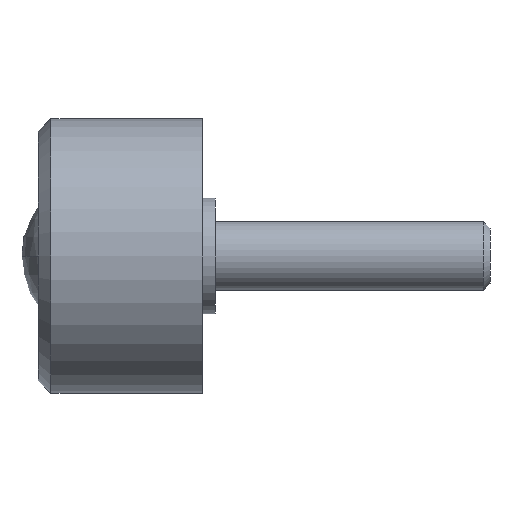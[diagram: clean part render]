
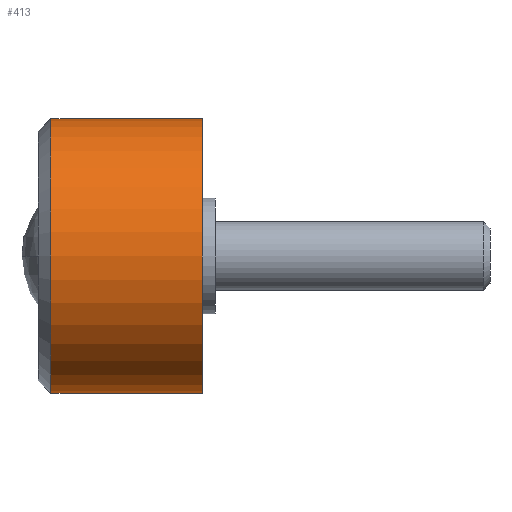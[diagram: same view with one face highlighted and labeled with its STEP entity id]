
A CAD part, left-side view. The second image highlights one B-rep face of the part: STEP entity #413.
In plain terms, the highlighted cylindrical face has radius 16 mm (diameter 32 mm), a partial arc.
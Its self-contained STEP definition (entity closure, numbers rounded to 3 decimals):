
#10 = VECTOR ( 'NONE', #735, 1000. ) ;
#22 = EDGE_CURVE ( 'NONE', #752, #479, #262, .T. ) ;
#58 = CARTESIAN_POINT ( 'NONE',  ( 0., 0., 16. ) ) ;
#62 = ORIENTED_EDGE ( 'NONE', *, *, #22, .T. ) ;
#69 = ORIENTED_EDGE ( 'NONE', *, *, #751, .T. ) ;
#74 = DIRECTION ( 'NONE',  ( 0., -1., 0. ) ) ;
#98 = EDGE_LOOP ( 'NONE', ( #249, #69, #62, #174 ) ) ;
#104 = DIRECTION ( 'NONE',  ( 0., -1., 0. ) ) ;
#107 = CIRCLE ( 'NONE', #462, 16. ) ;
#119 = LINE ( 'NONE', #58, #147 ) ;
#123 = EDGE_CURVE ( 'NONE', #640, #583, #119, .T. ) ;
#147 = VECTOR ( 'NONE', #238, 1000. ) ;
#157 = DIRECTION ( 'NONE',  ( 0., -1., 0. ) ) ;
#170 = CARTESIAN_POINT ( 'NONE',  ( 0., 17.6, -16. ) ) ;
#174 = ORIENTED_EDGE ( 'NONE', *, *, #710, .F. ) ;
#180 = CYLINDRICAL_SURFACE ( 'NONE', #642, 16. ) ;
#213 = AXIS2_PLACEMENT_3D ( 'NONE', #571, #157, #455 ) ;
#231 = CARTESIAN_POINT ( 'NONE',  ( 0., 17.6, 0. ) ) ;
#238 = DIRECTION ( 'NONE',  ( 0., -1., 0. ) ) ;
#249 = ORIENTED_EDGE ( 'NONE', *, *, #123, .F. ) ;
#255 = CARTESIAN_POINT ( 'NONE',  ( 0., 0., -16. ) ) ;
#262 = LINE ( 'NONE', #492, #10 ) ;
#340 = CARTESIAN_POINT ( 'NONE',  ( 0., 17.6, 16. ) ) ;
#413 = ADVANCED_FACE ( 'NONE', ( #708 ), #180, .T. ) ;
#455 = DIRECTION ( 'NONE',  ( 0., 0., -1. ) ) ;
#462 = AXIS2_PLACEMENT_3D ( 'NONE', #231, #104, #580 ) ;
#479 = VERTEX_POINT ( 'NONE', #255 ) ;
#492 = CARTESIAN_POINT ( 'NONE',  ( 0., 0., -16. ) ) ;
#571 = CARTESIAN_POINT ( 'NONE',  ( 0., 0., 0. ) ) ;
#580 = DIRECTION ( 'NONE',  ( 0., 0., 1. ) ) ;
#583 = VERTEX_POINT ( 'NONE', #733 ) ;
#640 = VERTEX_POINT ( 'NONE', #340 ) ;
#642 = AXIS2_PLACEMENT_3D ( 'NONE', #717, #74, #659 ) ;
#659 = DIRECTION ( 'NONE',  ( 0., 0., -1. ) ) ;
#700 = CIRCLE ( 'NONE', #213, 16. ) ;
#708 = FACE_OUTER_BOUND ( 'NONE', #98, .T. ) ;
#710 = EDGE_CURVE ( 'NONE', #583, #479, #700, .T. ) ;
#717 = CARTESIAN_POINT ( 'NONE',  ( 0., 0., 0. ) ) ;
#733 = CARTESIAN_POINT ( 'NONE',  ( 0., 0., 16. ) ) ;
#735 = DIRECTION ( 'NONE',  ( 0., -1., 0. ) ) ;
#751 = EDGE_CURVE ( 'NONE', #640, #752, #107, .T. ) ;
#752 = VERTEX_POINT ( 'NONE', #170 ) ;
